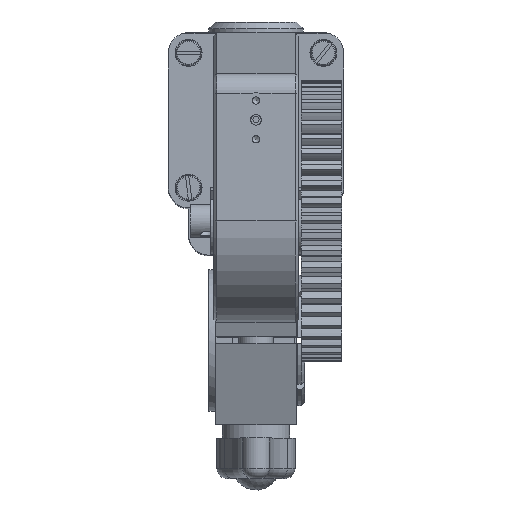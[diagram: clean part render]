
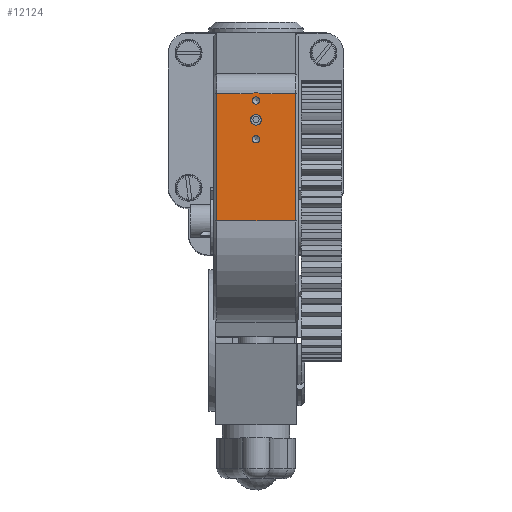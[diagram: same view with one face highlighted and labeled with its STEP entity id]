
A CAD part, top view. The second image highlights one B-rep face of the part: STEP entity #12124.
In plain terms, the highlighted planar face has unit normal (0, 0, 1).
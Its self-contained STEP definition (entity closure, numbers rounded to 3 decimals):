
#8 = CARTESIAN_POINT ( 'NONE',  ( 0., 0., 41. ) ) ;
#35 = DIRECTION ( 'NONE',  ( 1., 0., 0. ) ) ;
#277 = VERTEX_POINT ( 'NONE', #17317 ) ;
#335 = VERTEX_POINT ( 'NONE', #8903 ) ;
#605 = DIRECTION ( 'NONE',  ( 1., 0., 0. ) ) ;
#835 = CARTESIAN_POINT ( 'NONE',  ( -0.864, 3.906, 41. ) ) ;
#1933 = VERTEX_POINT ( 'NONE', #23424 ) ;
#3146 = LINE ( 'NONE', #8782, #12478 ) ;
#3212 = VERTEX_POINT ( 'NONE', #835 ) ;
#3494 = VECTOR ( 'NONE', #35, 1000. ) ;
#3542 = DIRECTION ( 'NONE',  ( -1., 0.007, 0. ) ) ;
#4492 = EDGE_CURVE ( 'NONE', #6511, #8215, #7068, .T. ) ;
#4554 = VERTEX_POINT ( 'NONE', #31746 ) ;
#4801 = DIRECTION ( 'NONE',  ( -1., 0.007, 0. ) ) ;
#5768 = LINE ( 'NONE', #10696, #7335 ) ;
#5969 = EDGE_LOOP ( 'NONE', ( #28187 ) ) ;
#6511 = VERTEX_POINT ( 'NONE', #29727 ) ;
#7068 = LINE ( 'NONE', #23452, #26331 ) ;
#7325 = EDGE_CURVE ( 'NONE', #6511, #277, #3146, .T. ) ;
#7335 = VECTOR ( 'NONE', #28301, 1000. ) ;
#8215 = VERTEX_POINT ( 'NONE', #19780 ) ;
#8782 = CARTESIAN_POINT ( 'NONE',  ( -5.85, -15., 41. ) ) ;
#8903 = CARTESIAN_POINT ( 'NONE',  ( -0.57, -2.871, 41. ) ) ;
#10088 = DIRECTION ( 'NONE',  ( 0., 1., 0. ) ) ;
#10696 = CARTESIAN_POINT ( 'NONE',  ( 13., 3.906, 41. ) ) ;
#11626 = VERTEX_POINT ( 'NONE', #11977 ) ;
#11670 = CARTESIAN_POINT ( 'NONE',  ( -0.294, 4., 41. ) ) ;
#11773 = CARTESIAN_POINT ( 'NONE',  ( -0.582, 3.969, 41. ) ) ;
#11882 = CARTESIAN_POINT ( 'NONE',  ( 0.582, 3.969, 41. ) ) ;
#11977 = CARTESIAN_POINT ( 'NONE',  ( -0.8, 0.006, 41. ) ) ;
#12124 = ADVANCED_FACE ( 'NONE', ( #27858, #14038, #32139, #30580 ), #17912, .T. ) ;
#12198 = CARTESIAN_POINT ( 'NONE',  ( 0.02, 2.875, 41. ) ) ;
#12478 = VECTOR ( 'NONE', #23981, 1000. ) ;
#12582 = ORIENTED_EDGE ( 'NONE', *, *, #15240, .F. ) ;
#14038 = FACE_BOUND ( 'NONE', #5969, .T. ) ;
#14062 = CARTESIAN_POINT ( 'NONE',  ( 0.864, 3.906, 41. ) ) ;
#14789 = EDGE_LOOP ( 'NONE', ( #29299 ) ) ;
#15101 = EDGE_CURVE ( 'NONE', #27001, #27001, #25473, .T. ) ;
#15240 = EDGE_CURVE ( 'NONE', #277, #3212, #30535, .T. ) ;
#16417 = CIRCLE ( 'NONE', #31685, 0.55 ) ;
#17317 = CARTESIAN_POINT ( 'NONE',  ( -5.85, 3.906, 41. ) ) ;
#17358 = ORIENTED_EDGE ( 'NONE', *, *, #4492, .T. ) ;
#17912 = PLANE ( 'NONE',  #18100 ) ;
#18100 = AXIS2_PLACEMENT_3D ( 'NONE', #8, #25163, #25059 ) ;
#19780 = CARTESIAN_POINT ( 'NONE',  ( 5.85, -15., 41. ) ) ;
#19795 = DIRECTION ( 'NONE',  ( 0., 0., 1. ) ) ;
#21286 = EDGE_LOOP ( 'NONE', ( #30005 ) ) ;
#21532 = CARTESIAN_POINT ( 'NONE',  ( -0.53, 2.879, 41. ) ) ;
#23392 = CARTESIAN_POINT ( 'NONE',  ( -0.02, -2.875, 41. ) ) ;
#23424 = CARTESIAN_POINT ( 'NONE',  ( 5.85, 3.906, 41. ) ) ;
#23452 = CARTESIAN_POINT ( 'NONE',  ( -13., -15., 41. ) ) ;
#23524 = ORIENTED_EDGE ( 'NONE', *, *, #7325, .F. ) ;
#23929 = EDGE_CURVE ( 'NONE', #8215, #1933, #30762, .T. ) ;
#23981 = DIRECTION ( 'NONE',  ( 0., 1., 0. ) ) ;
#24985 = AXIS2_PLACEMENT_3D ( 'NONE', #12198, #19795, #4801 ) ;
#25059 = DIRECTION ( 'NONE',  ( -1., 0.007, 0. ) ) ;
#25077 = CARTESIAN_POINT ( 'NONE',  ( 5.85, -15., 41. ) ) ;
#25163 = DIRECTION ( 'NONE',  ( 0., 0., 1. ) ) ;
#25175 = EDGE_CURVE ( 'NONE', #335, #335, #16417, .T. ) ;
#25300 = CARTESIAN_POINT ( 'NONE',  ( -13., 3.906, 41. ) ) ;
#25327 = ORIENTED_EDGE ( 'NONE', *, *, #30799, .T. ) ;
#25473 = CIRCLE ( 'NONE', #24985, 0.55 ) ;
#25838 = AXIS2_PLACEMENT_3D ( 'NONE', #26447, #31451, #31763 ) ;
#26331 = VECTOR ( 'NONE', #605, 1000. ) ;
#26438 = ORIENTED_EDGE ( 'NONE', *, *, #23929, .T. ) ;
#26447 = CARTESIAN_POINT ( 'NONE',  ( 0., 0., 41. ) ) ;
#26863 = CARTESIAN_POINT ( 'NONE',  ( 0.293, 4., 41. ) ) ;
#27001 = VERTEX_POINT ( 'NONE', #21532 ) ;
#27659 = VECTOR ( 'NONE', #10088, 1000. ) ;
#27858 = FACE_BOUND ( 'NONE', #14789, .T. ) ;
#28187 = ORIENTED_EDGE ( 'NONE', *, *, #15101, .F. ) ;
#28301 = DIRECTION ( 'NONE',  ( -1., 0., 0. ) ) ;
#28434 = DIRECTION ( 'NONE',  ( 0., 0., 1. ) ) ;
#28579 = EDGE_CURVE ( 'NONE', #4554, #3212, #30992, .T. ) ;
#29299 = ORIENTED_EDGE ( 'NONE', *, *, #25175, .F. ) ;
#29472 = CARTESIAN_POINT ( 'NONE',  ( -0.864, 3.906, 41. ) ) ;
#29727 = CARTESIAN_POINT ( 'NONE',  ( -5.85, -15., 41. ) ) ;
#30005 = ORIENTED_EDGE ( 'NONE', *, *, #30917, .F. ) ;
#30303 = EDGE_LOOP ( 'NONE', ( #31957, #12582, #23524, #17358, #26438, #25327 ) ) ;
#30478 = CIRCLE ( 'NONE', #25838, 0.8 ) ;
#30535 = LINE ( 'NONE', #25300, #3494 ) ;
#30580 = FACE_OUTER_BOUND ( 'NONE', #30303, .T. ) ;
#30762 = LINE ( 'NONE', #25077, #27659 ) ;
#30799 = EDGE_CURVE ( 'NONE', #1933, #4554, #5768, .T. ) ;
#30917 = EDGE_CURVE ( 'NONE', #11626, #11626, #30478, .T. ) ;
#30992 = B_SPLINE_CURVE_WITH_KNOTS ( 'NONE', 3,
 ( #14062, #11882, #26863, #11670, #11773, #29472 ),
 .UNSPECIFIED., .F., .F.,
 ( 4, 2, 4 ),
 ( 0.216, 0.251, 0.286 ),
 .UNSPECIFIED. ) ;
#31451 = DIRECTION ( 'NONE',  ( 0., 0., 1. ) ) ;
#31685 = AXIS2_PLACEMENT_3D ( 'NONE', #23392, #28434, #3542 ) ;
#31746 = CARTESIAN_POINT ( 'NONE',  ( 0.864, 3.906, 41. ) ) ;
#31763 = DIRECTION ( 'NONE',  ( -1., 0.007, 0. ) ) ;
#31957 = ORIENTED_EDGE ( 'NONE', *, *, #28579, .T. ) ;
#32139 = FACE_BOUND ( 'NONE', #21286, .T. ) ;
